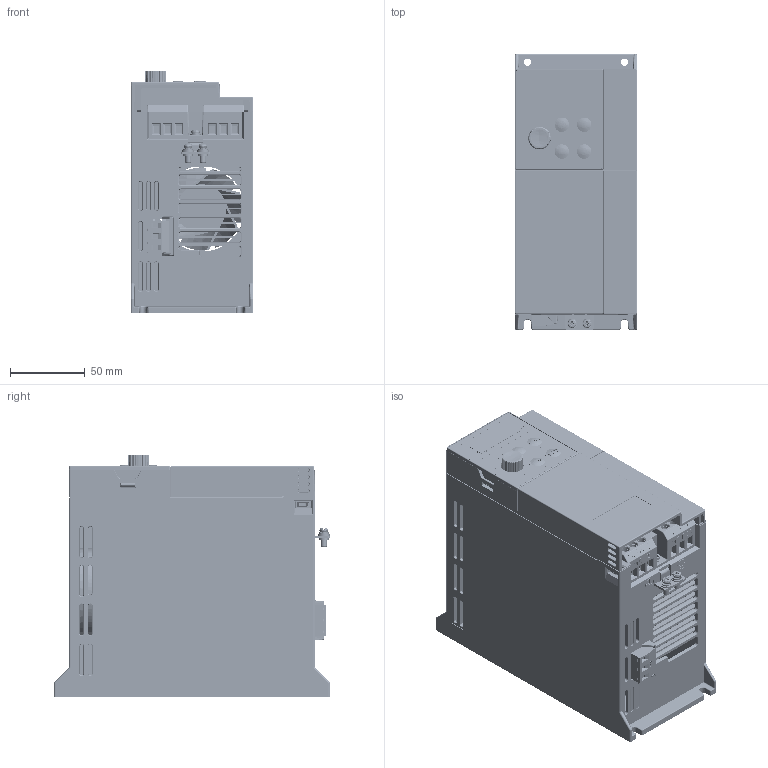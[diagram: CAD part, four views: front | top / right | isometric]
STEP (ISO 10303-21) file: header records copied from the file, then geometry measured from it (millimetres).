
FILE_DESCRIPTION((''),'2;1');
FILE_NAME('AD80-D1_ASM','2022-03-02T12:33:37',('wendong.luo'),(''),'CREO PARAMETRIC BY PTC INC, 2018100','CREO PARAMETRIC BY PTC INC, 2018100','');
FILE_SCHEMA(('CONFIG_CONTROL_DESIGN','GEOMETRIC_VALIDATION_PROPERTIES_MIM'));
Products named in the file (22): AD80-S1-MECHANICAL_PART; E0100292; E0400085; E0400084; E0400074; E0400035; E0400088; E0400086; E0400082; E0100292_ASM; M0202052; M3-SPRING_FLAT; M3-WASHER; M0202052_ASM; M0104059; E0400083; M0202003; FAN6025; AD80-LCP-MECHANICAL_PART; AD80-LCP-FOIL; AD80-D0-LCP_ASM; AD80-D1_ASM
Assembly tree (28 placements, depth 3):
  AD80-D1_ASM
    AD80-S1-MECHANICAL_PART
    E0100292_ASM
      E0100292
      E0400085  x3
      E0400084  x2
      E0400074
      E0400035
      E0400088
      E0400086  x3
      E0400082  x2
    M0202052_ASM
      M0202052
      M3-SPRING_FLAT
      M3-WASHER
    M0104059
    E0400083
    M0202003  x2
    FAN6025
    AD80-D0-LCP_ASM
      AD80-LCP-MECHANICAL_PART
      AD80-LCP-FOIL
Bounding box: 82 x 185 x 162.6 mm (x, y, z)
Volume: 442620.1 mm3; surface area: 463739.2 mm2
Topology: 33 solids, 43 shells, 10333 faces, 27508 edges, 17531 vertices
Faces by surface type: plane 5960, cylinder 1787, bspline 998, cone 698, torus 344, sphere 299, extrusion 247
Entity records: 420662 total; most frequent: CARTESIAN_POINT 103858, ORIENTED_EDGE 45164, DIRECTION 38805, PRESENTATION_STYLE_ASSIGNMENT 27663, STYLED_ITEM 27039, EDGE_CURVE 22602, CURVE_STYLE 21695, VERTEX_POINT 14354
